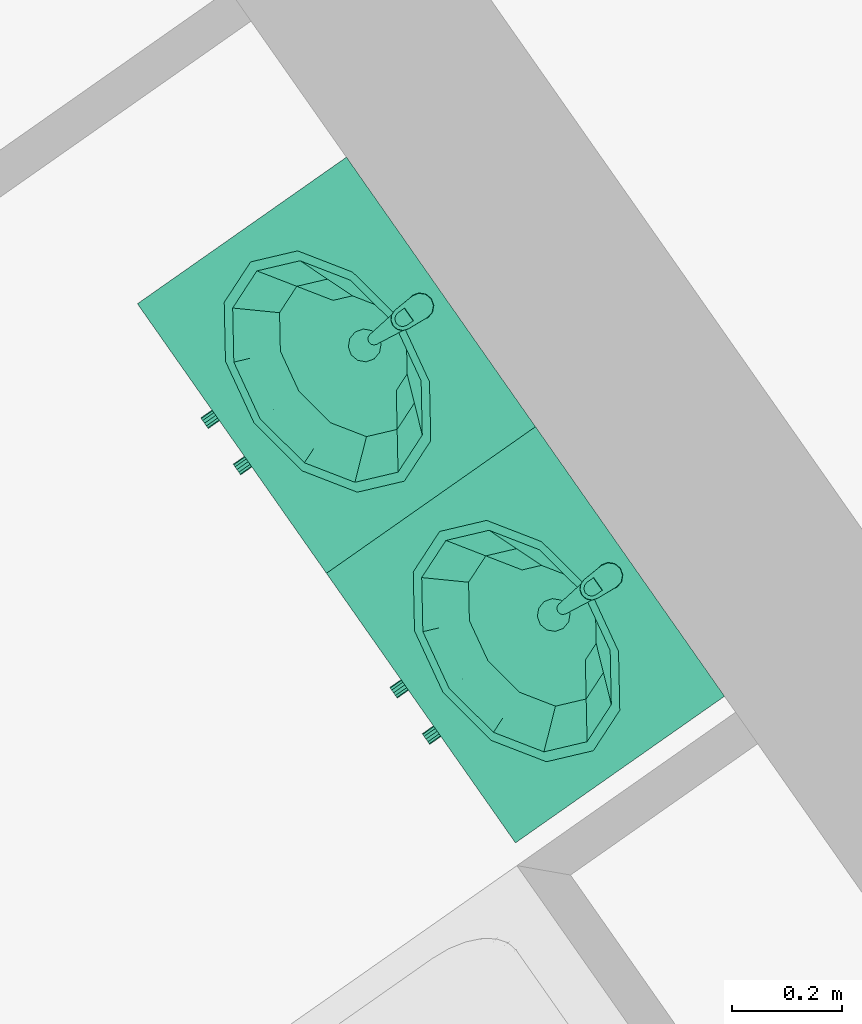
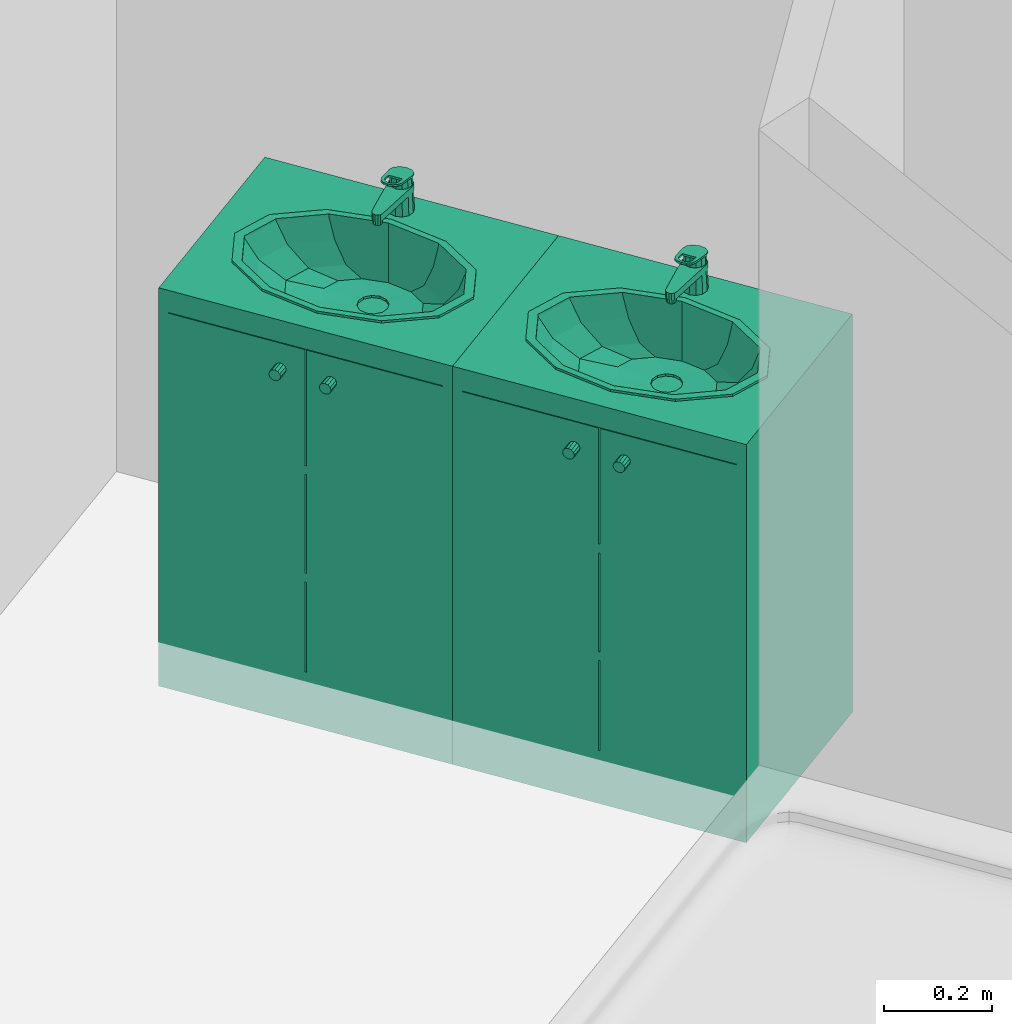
# One storey, part 90 of 121: 2 distribution elements.
"""IFC2X3 building model written with IfcOpenShell, lengths in metres."""

from ifc_helpers import new_model, entity, si_unit, converted_unit, derived_unit, money_unit, direction, frame, origin_with_axes, place, context, subcontext, project, spatial, open_shell, faceted_brep, surface_model, source, transform, mapped, type_object, element, save


model = new_model("IFC2X3")

# Units and contexts
model_context = context("Model", 3, precision=1e-05, world=origin_with_axes(), true_north=direction((0.0, 1.0)))
body_context = subcontext(model_context, "Body", "Model", "MODEL_VIEW")
ifc_project = project(units=[si_unit("LENGTHUNIT", "METRE"), si_unit("AREAUNIT", "SQUARE_METRE"), si_unit("VOLUMEUNIT", "CUBIC_METRE"), converted_unit("PLANEANGLEUNIT", "DEGREE", entity("IfcPlaneAngleMeasure", 0.0174532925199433), si_unit("PLANEANGLEUNIT", "RADIAN"), dimensions=[0, 0, 0, 0, 0, 0, 0]), money_unit("CHF"), converted_unit("TIMEUNIT", "Year", entity("IfcTimeMeasure", 31557600.0), si_unit("TIMEUNIT", "SECOND"), dimensions=[0, 0, 1, 0, 0, 0, 0]), si_unit("MASSUNIT", "GRAM", prefix="KILO"), si_unit("THERMODYNAMICTEMPERATUREUNIT", "DEGREE_CELSIUS"), si_unit("LUMINOUSINTENSITYUNIT", "LUMEN"), si_unit("ENERGYUNIT", "JOULE", prefix="MEGA"), derived_unit("THERMALCONDUCTANCEUNIT", [(si_unit("POWERUNIT", "WATT"), 1), (si_unit("LENGTHUNIT", "METRE"), -1), (si_unit("THERMODYNAMICTEMPERATUREUNIT", "KELVIN"), -1)]), derived_unit("SPECIFICHEATCAPACITYUNIT", [(si_unit("ENERGYUNIT", "JOULE"), 1), (si_unit("MASSUNIT", "GRAM", prefix="KILO"), -1), (si_unit("THERMODYNAMICTEMPERATUREUNIT", "KELVIN"), -1)]), derived_unit("MASSDENSITYUNIT", [(si_unit("MASSUNIT", "GRAM", prefix="KILO"), 1), (si_unit("VOLUMEUNIT", "CUBIC_METRE"), -1)])], contexts=[model_context])

# Site, building, storey
site_placement = place(None, origin_with_axes())
site = spatial("IfcSite", under=ifc_project, at=site_placement, Name="Site", CompositionType="ELEMENT")
building_placement = place(site_placement, origin_with_axes())
building = spatial("IfcBuilding", under=site, at=building_placement, Name="Bâtiment", CompositionType="ELEMENT")
storey_placement = place(building_placement, frame((0.0, 0.0, 2.75), z_axis=(0.0, 0.0, 1.0), x_axis=(1.0, 0.0, 0.0)))
storey = spatial("IfcBuildingStorey", under=building, at=storey_placement, Name="Etage 1", CompositionType="ELEMENT", Elevation=2.75)

# Distribution elements
distribution_element_type = type_object("IfcDistributionElementType", Name="Lavabo sur meuble 27")
shared_shape = source(origin_with_axes(), body_context, "Body", "SurfaceModel", [
    faceted_brep([(0.0, 0.0, 0.0), (0.6, 0.0, 0.0), (0.6, 0.0, 0.1), (0.0, 0.0, 0.1), (0.0, 0.4653441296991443, 0.0), (0.6, 0.4653441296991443, 0.0), (0.6, 0.4653441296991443, 0.1), (0.0, 0.4653441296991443, 0.1)], [[[0, 1, 2, 3]], [[0, 4, 5, 1]], [[1, 5, 6, 2]], [[3, 2, 6, 7]], [[4, 0, 3, 7]], [[5, 4, 7, 6]]]),
    faceted_brep([(0.0, 0.0, 0.1), (0.02, 0.0, 0.1), (0.02, 0.0, 0.12), (0.0, 0.0, 0.12), (0.0, 0.4653441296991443, 0.1), (0.02, 0.4653441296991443, 0.1), (0.58, 0.4653441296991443, 0.1), (0.6, 0.4653441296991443, 0.1), (0.6, 0.0, 0.1), (0.58, 0.0, 0.1), (0.58, 0.0, 0.12), (0.6, 0.0, 0.12), (0.6, 0.4653441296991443, 0.12), (0.58, 0.4653441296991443, 0.12), (0.02, 0.4653441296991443, 0.12), (0.0, 0.4653441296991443, 0.12)], [[[0, 1, 2, 3]], [[0, 4, 5, 6, 7, 8, 9, 1]], [[1, 9, 10, 2]], [[3, 2, 10, 11, 12, 13, 14, 15]], [[4, 0, 3, 15]], [[5, 4, 15, 14]], [[6, 5, 14, 13]], [[7, 6, 13, 12]], [[8, 7, 12, 11]], [[9, 8, 11, 10]]]),
    faceted_brep([(0.0, 0.0, 0.12), (0.02, 0.0, 0.12), (0.02, 0.0, 0.85), (0.0, 0.0, 0.85), (0.0, 0.4653441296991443, 0.12), (0.6, 0.4653441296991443, 0.12), (0.6, 0.0, 0.12), (0.58, 0.0, 0.12), (0.58, 0.4453441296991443, 0.12), (0.02, 0.4453441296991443, 0.12), (0.02, 0.4453441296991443, 0.85), (0.58, 0.4453441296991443, 0.85), (0.58, 0.0, 0.85), (0.6, 0.0, 0.85), (0.6, 0.4653441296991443, 0.85), (0.0, 0.4653441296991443, 0.85)], [[[0, 1, 2, 3]], [[0, 4, 5, 6, 7, 8, 9, 1]], [[1, 9, 10, 2]], [[3, 2, 10, 11, 12, 13, 14, 15]], [[4, 0, 3, 15]], [[5, 4, 15, 14]], [[6, 5, 14, 13]], [[7, 6, 13, 12]], [[8, 7, 12, 11]], [[9, 8, 11, 10]]]),
    faceted_brep([(0.58, 0.0, 0.3233333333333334), (0.58, 0.4453441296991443, 0.3233333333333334), (0.58, 0.4453441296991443, 0.3433333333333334), (0.58, 0.0, 0.3433333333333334), (0.02, 0.0, 0.3233333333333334), (0.02, 0.4453441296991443, 0.3233333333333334), (0.02, 0.4453441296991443, 0.3433333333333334), (0.02, 0.0, 0.3433333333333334)], [[[0, 1, 2, 3]], [[0, 4, 5, 1]], [[1, 5, 6, 2]], [[3, 2, 6, 7]], [[4, 0, 3, 7]], [[5, 4, 7, 6]]]),
    faceted_brep([(0.58, 0.0, 0.5666666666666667), (0.58, 0.4453441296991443, 0.5666666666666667), (0.58, 0.4453441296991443, 0.5866666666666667), (0.58, 0.0, 0.5866666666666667), (0.02, 0.0, 0.5666666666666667), (0.02, 0.4453441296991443, 0.5666666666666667), (0.02, 0.4453441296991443, 0.5866666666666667), (0.02, 0.0, 0.5866666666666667)], [[[0, 1, 2, 3]], [[0, 4, 5, 1]], [[1, 5, 6, 2]], [[3, 2, 6, 7]], [[4, 0, 3, 7]], [[5, 4, 7, 6]]]),
    faceted_brep([(0.0, 0.4653441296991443, 0.85), (0.6, 0.4653441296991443, 0.85), (0.6, 0.0, 0.85), (0.0, 0.0, 0.85), (0.4124999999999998, 0.08276825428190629, 0.85), (0.4948557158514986, 0.137672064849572, 0.85), (0.525, 0.2126720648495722, 0.85), (0.4948557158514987, 0.2876720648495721, 0.85), (0.4125, 0.3425758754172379, 0.85), (0.3, 0.3626720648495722, 0.85), (0.1875000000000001, 0.342575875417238, 0.85), (0.1051442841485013, 0.2876720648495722, 0.85), (0.07499999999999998, 0.2126720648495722, 0.85), (0.1051442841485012, 0.1376720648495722, 0.85), (0.1874999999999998, 0.08276825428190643, 0.85), (0.3, 0.06267206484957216, 0.85), (0.0, 0.4653441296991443, 0.9), (0.6, 0.4653441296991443, 0.9), (0.6, 0.0, 0.9), (0.0, 0.0, 0.9), (0.4124999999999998, 0.08276825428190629, 0.9), (0.4948557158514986, 0.137672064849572, 0.9), (0.525, 0.2126720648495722, 0.9), (0.4948557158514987, 0.2876720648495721, 0.9), (0.4125, 0.3425758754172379, 0.9), (0.3, 0.3626720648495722, 0.9), (0.1875000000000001, 0.342575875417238, 0.9), (0.1051442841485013, 0.2876720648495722, 0.9), (0.07499999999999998, 0.2126720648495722, 0.9), (0.1051442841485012, 0.1376720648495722, 0.9), (0.1874999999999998, 0.08276825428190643, 0.9), (0.3, 0.06267206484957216, 0.9)], [[[0, 1, 2, 3], [4, 5, 6, 7, 8, 9, 10, 11, 12, 13, 14, 15]], [[0, 16, 17, 1]], [[1, 17, 18, 2]], [[2, 18, 19, 3]], [[3, 19, 16, 0]], [[20, 21, 5, 4]], [[21, 22, 6, 5]], [[22, 23, 7, 6]], [[23, 24, 8, 7]], [[24, 25, 9, 8]], [[25, 26, 10, 9]], [[26, 27, 11, 10]], [[27, 28, 12, 11]], [[28, 29, 13, 12]], [[29, 30, 14, 13]], [[30, 31, 15, 14]], [[31, 20, 4, 15]], [[18, 17, 16, 19], [24, 23, 22, 21, 20, 31, 30, 29, 28, 27, 26, 25]]]),
    faceted_brep([(0.544, 0.2126720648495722, 0.905), (0.544, 0.2126720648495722, 0.9), (0.511310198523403, 0.2943684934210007, 0.9), (0.511310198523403, 0.2943684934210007, 0.905), (0.5113101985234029, 0.1309756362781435, 0.905), (0.5113101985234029, 0.1309756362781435, 0.9), (0.4219999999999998, 0.07116969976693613, 0.9), (0.3, 0.04927920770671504, 0.9), (0.1779999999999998, 0.07116969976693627, 0.9), (0.08868980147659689, 0.1309756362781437, 0.9), (0.05599999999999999, 0.2126720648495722, 0.9), (0.088689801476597, 0.2943684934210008, 0.9), (0.178, 0.3541744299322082, 0.9), (0.3, 0.3760649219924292, 0.9), (0.422, 0.3541744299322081, 0.9), (0.524, 0.2126720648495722, 0.9), (0.4939896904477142, 0.2876720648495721, 0.9), (0.412, 0.3425758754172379, 0.9), (0.3, 0.3626720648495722, 0.9), (0.1880000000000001, 0.342575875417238, 0.9), (0.1060103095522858, 0.2876720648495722, 0.9), (0.07599999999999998, 0.2126720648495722, 0.9), (0.1060103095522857, 0.1376720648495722, 0.9), (0.1879999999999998, 0.08276825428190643, 0.9), (0.3, 0.06267206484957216, 0.9), (0.4119999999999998, 0.08276825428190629, 0.9), (0.4939896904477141, 0.137672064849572, 0.9), (0.422, 0.3541744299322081, 0.905), (0.3, 0.3760649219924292, 0.905), (0.178, 0.3541744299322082, 0.905), (0.088689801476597, 0.2943684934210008, 0.905), (0.05599999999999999, 0.2126720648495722, 0.905), (0.08868980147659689, 0.1309756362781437, 0.905), (0.1779999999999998, 0.07116969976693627, 0.905), (0.3, 0.04927920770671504, 0.905), (0.4219999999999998, 0.07116969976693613, 0.905), (0.524, 0.2126720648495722, 0.905), (0.4939896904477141, 0.137672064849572, 0.905), (0.4119999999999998, 0.08276825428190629, 0.905), (0.3, 0.06267206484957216, 0.905), (0.1879999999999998, 0.08276825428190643, 0.905), (0.1060103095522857, 0.1376720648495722, 0.905), (0.07599999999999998, 0.2126720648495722, 0.905), (0.1060103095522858, 0.2876720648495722, 0.905), (0.1880000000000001, 0.342575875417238, 0.905), (0.3, 0.3626720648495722, 0.905), (0.412, 0.3425758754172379, 0.905), (0.4939896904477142, 0.2876720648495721, 0.905)], [[[0, 1, 2, 3]], [[4, 5, 1, 0]], [[1, 5, 6, 7, 8, 9, 10, 11, 12, 13, 14, 2], [15, 16, 17, 18, 19, 20, 21, 22, 23, 24, 25, 26]], [[3, 2, 14, 27]], [[0, 3, 27, 28, 29, 30, 31, 32, 33, 34, 35, 4], [36, 37, 38, 39, 40, 41, 42, 43, 44, 45, 46, 47]], [[35, 6, 5, 4]], [[34, 7, 6, 35]], [[33, 8, 7, 34]], [[32, 9, 8, 33]], [[31, 10, 9, 32]], [[30, 11, 10, 31]], [[29, 12, 11, 30]], [[28, 13, 12, 29]], [[27, 14, 13, 28]], [[47, 16, 15, 36]], [[46, 17, 16, 47]], [[45, 18, 17, 46]], [[44, 19, 18, 45]], [[43, 20, 19, 44]], [[42, 21, 20, 43]], [[41, 22, 21, 42]], [[40, 23, 22, 41]], [[39, 24, 23, 40]], [[38, 25, 24, 39]], [[37, 26, 25, 38]], [[36, 15, 26, 37]]]),
    surface_model("IfcShellBasedSurfaceModel", [(0.3, 0.3626720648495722, 0.9), (0.3, 0.3626720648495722, 0.848), (0.4008, 0.3445854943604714, 0.848), (0.412, 0.342575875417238, 0.9), (0.1879999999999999, 0.3425758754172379, 0.9), (0.1991999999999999, 0.3445854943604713, 0.848), (0.4745907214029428, 0.2951720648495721, 0.848), (0.4939896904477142, 0.2876720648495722, 0.9), (0.1060103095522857, 0.2876720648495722, 0.9), (0.1254092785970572, 0.2951720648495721, 0.848), (0.5016, 0.2276720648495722, 0.848), (0.524, 0.2126720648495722, 0.9), (0.07599999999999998, 0.2126720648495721, 0.9), (0.09839999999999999, 0.2276720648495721, 0.848), (0.4745907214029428, 0.1601720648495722, 0.848), (0.4939896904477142, 0.1376720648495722, 0.9), (0.1060103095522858, 0.1376720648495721, 0.9), (0.1254092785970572, 0.1601720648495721, 0.848), (0.4008, 0.1107586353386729, 0.848), (0.412, 0.08276825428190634, 0.9), (0.1879999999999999, 0.08276825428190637, 0.9), (0.1992, 0.110758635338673, 0.848), (0.3, 0.09267206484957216, 0.848), (0.3, 0.06267206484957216, 0.9)], [open_shell([[[0, 1, 2, 3]], [[4, 5, 1, 0]], [[3, 2, 6, 7]], [[8, 9, 5, 4]], [[7, 6, 10, 11]], [[12, 13, 9, 8]], [[11, 10, 14, 15]], [[16, 17, 13, 12]], [[15, 14, 18, 19]], [[20, 21, 17, 16]], [[19, 18, 22, 23]], [[23, 22, 21, 20]]])]),
    surface_model("IfcShellBasedSurfaceModel", [(0.3, 0.3626720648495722, 0.848), (0.3, 0.3626720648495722, 0.7959999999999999), (0.379632, 0.3483836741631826, 0.7959999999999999), (0.4008, 0.3445854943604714, 0.848), (0.1991999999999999, 0.3445854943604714, 0.848), (0.2203679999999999, 0.3483836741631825, 0.7959999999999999), (0.4379266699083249, 0.3093470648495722, 0.7959999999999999), (0.4745907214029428, 0.2951720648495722, 0.848), (0.1254092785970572, 0.2951720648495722, 0.848), (0.1620733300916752, 0.3093470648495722, 0.7959999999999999), (0.459264, 0.2560220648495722, 0.7959999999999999), (0.5016, 0.2276720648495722, 0.848), (0.09839999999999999, 0.2276720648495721, 0.848), (0.140736, 0.2560220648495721, 0.7959999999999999), (0.4379266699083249, 0.2026970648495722, 0.7959999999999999), (0.4745907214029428, 0.1601720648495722, 0.848), (0.1254092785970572, 0.1601720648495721, 0.848), (0.1620733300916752, 0.2026970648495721, 0.7959999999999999), (0.379632, 0.1636604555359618, 0.7959999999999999), (0.4008, 0.1107586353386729, 0.848), (0.1992, 0.110758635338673, 0.848), (0.220368, 0.1636604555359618, 0.7959999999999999), (0.3, 0.1493720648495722, 0.7959999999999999), (0.3, 0.09267206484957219, 0.848)], [open_shell([[[0, 1, 2, 3]], [[4, 5, 1, 0]], [[3, 2, 6, 7]], [[8, 9, 5, 4]], [[7, 6, 10, 11]], [[12, 13, 9, 8]], [[11, 10, 14, 15]], [[16, 17, 13, 12]], [[15, 14, 18, 19]], [[20, 21, 17, 16]], [[19, 18, 22, 23]], [[23, 22, 21, 20]]])]),
    surface_model("IfcShellBasedSurfaceModel", [(0.3, 0.3626720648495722, 0.7959999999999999), (0.3, 0.3626720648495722, 0.7699999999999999), (0.35016816, 0.3536703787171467, 0.7699999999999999), (0.379632, 0.3483836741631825, 0.7959999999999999), (0.2203679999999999, 0.3483836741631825, 0.7959999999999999), (0.2498318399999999, 0.3536703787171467, 0.7699999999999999), (0.3868938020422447, 0.3290773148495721, 0.7699999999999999), (0.4379266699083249, 0.3093470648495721, 0.7959999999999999), (0.1620733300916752, 0.3093470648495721, 0.7959999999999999), (0.2131061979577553, 0.3290773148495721, 0.7699999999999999), (0.40033632, 0.2954825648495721, 0.7699999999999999), (0.459264, 0.2560220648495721, 0.7959999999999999), (0.140736, 0.2560220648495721, 0.7959999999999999), (0.19966368, 0.2954825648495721, 0.7699999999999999), (0.3868938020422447, 0.2618878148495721, 0.7699999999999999), (0.4379266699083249, 0.2026970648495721, 0.7959999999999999), (0.1620733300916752, 0.2026970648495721, 0.7959999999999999), (0.2131061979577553, 0.2618878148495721, 0.7699999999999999), (0.35016816, 0.2372947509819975, 0.7699999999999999), (0.379632, 0.1636604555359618, 0.7959999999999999), (0.220368, 0.1636604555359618, 0.7959999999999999), (0.24983184, 0.2372947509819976, 0.7699999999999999), (0.3, 0.2282930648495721, 0.7699999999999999), (0.3, 0.1493720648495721, 0.7959999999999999)], [open_shell([[[0, 1, 2, 3]], [[4, 5, 1, 0]], [[3, 2, 6, 7]], [[8, 9, 5, 4]], [[7, 6, 10, 11]], [[12, 13, 9, 8]], [[11, 10, 14, 15]], [[16, 17, 13, 12]], [[15, 14, 18, 19]], [[20, 21, 17, 16]], [[19, 18, 22, 23]], [[23, 22, 21, 20]]])]),
    surface_model("IfcShellBasedSurfaceModel", [(0.3, 0.3626720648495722, 0.7699999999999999), (0.315, 0.3214633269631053, 0.7629999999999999), (0.35016816, 0.3536703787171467, 0.7699999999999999), (0.3, 0.3254825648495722, 0.7629999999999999), (0.3259807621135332, 0.3104825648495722, 0.7629999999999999), (0.2498318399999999, 0.3536703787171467, 0.7699999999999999), (0.3868938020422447, 0.3290773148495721, 0.7699999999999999), (0.285, 0.3214633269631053, 0.7629999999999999), (0.33, 0.2954825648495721, 0.7629999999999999), (0.2131061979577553, 0.3290773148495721, 0.7699999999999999), (0.40033632, 0.2954825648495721, 0.7699999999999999), (0.2740192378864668, 0.3104825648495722, 0.7629999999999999), (0.3259807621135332, 0.2804825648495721, 0.7629999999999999), (0.19966368, 0.2954825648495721, 0.7699999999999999), (0.3868938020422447, 0.2618878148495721, 0.7699999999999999), (0.27, 0.2954825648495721, 0.7629999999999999), (0.315, 0.269501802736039, 0.7629999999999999), (0.2131061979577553, 0.2618878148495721, 0.7699999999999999), (0.35016816, 0.2372947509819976, 0.7699999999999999), (0.2740192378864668, 0.2804825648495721, 0.7629999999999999), (0.3, 0.2654825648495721, 0.7629999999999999), (0.24983184, 0.2372947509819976, 0.7699999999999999), (0.3, 0.2282930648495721, 0.7699999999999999), (0.285, 0.269501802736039, 0.7629999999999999)], [open_shell([[[0, 1, 2]], [[0, 3, 1]], [[2, 1, 4]], [[5, 3, 0]], [[2, 4, 6]], [[5, 7, 3]], [[6, 4, 8]], [[9, 7, 5]], [[6, 8, 10]], [[9, 11, 7]], [[10, 8, 12]], [[13, 11, 9]], [[10, 12, 14]], [[13, 15, 11]], [[14, 12, 16]], [[17, 15, 13]], [[14, 16, 18]], [[17, 19, 15]], [[18, 16, 20]], [[21, 19, 17]], [[18, 20, 22]], [[21, 23, 19]], [[22, 20, 23]], [[22, 23, 21]]])]),
    surface_model("IfcShellBasedSurfaceModel", [(0.33, 0.2954825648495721, 0.763), (0.33, 0.2954825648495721, 0.758), (0.3259807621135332, 0.3104825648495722, 0.758), (0.3259807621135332, 0.3104825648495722, 0.763), (0.3259807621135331, 0.2804825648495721, 0.763), (0.3259807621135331, 0.2804825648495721, 0.758), (0.3149999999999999, 0.269501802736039, 0.758), (0.3, 0.2654825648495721, 0.758), (0.285, 0.269501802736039, 0.758), (0.2740192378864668, 0.2804825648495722, 0.758), (0.27, 0.2954825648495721, 0.758), (0.2740192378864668, 0.3104825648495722, 0.758), (0.285, 0.3214633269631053, 0.758), (0.3, 0.3254825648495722, 0.758), (0.315, 0.3214633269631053, 0.758), (0.315, 0.3214633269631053, 0.763), (0.3149999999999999, 0.269501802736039, 0.763), (0.3, 0.2654825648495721, 0.763), (0.285, 0.269501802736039, 0.763), (0.2740192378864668, 0.2804825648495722, 0.763), (0.27, 0.2954825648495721, 0.763), (0.2740192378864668, 0.3104825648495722, 0.763), (0.285, 0.3214633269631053, 0.763), (0.3, 0.3254825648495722, 0.763)], [open_shell([[[0, 1, 2, 3]], [[4, 5, 1, 0]], [[1, 5, 6, 7, 8, 9, 10, 11, 12, 13, 14, 2]], [[3, 2, 14, 15]], [[16, 6, 5, 4]], [[17, 7, 6, 16]], [[18, 8, 7, 17]], [[19, 9, 8, 18]], [[20, 10, 9, 19]], [[21, 11, 10, 20]], [[22, 12, 11, 21]], [[23, 13, 12, 22]], [[15, 14, 13, 23]]])]),
    faceted_brep([(0.3125, 0.4406587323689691, 0.9), (0.3, 0.4440080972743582, 0.9), (0.3, 0.4402100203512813, 0.9759615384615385), (0.310587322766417, 0.4373458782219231, 0.976507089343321), (0.3216506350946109, 0.4315080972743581, 0.9), (0.325, 0.4190080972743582, 0.9), (0.3216506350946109, 0.4065080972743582, 0.9), (0.3125, 0.3973574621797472, 0.9), (0.3, 0.3940080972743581, 0.9), (0.2875, 0.3973574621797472, 0.9), (0.278349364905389, 0.4065080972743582, 0.9), (0.275, 0.4190080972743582, 0.9), (0.278349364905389, 0.4315080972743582, 0.9), (0.2875, 0.4406587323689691, 0.9), (0.289412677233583, 0.4373458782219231, 0.976507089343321), (0.2817264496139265, 0.4295583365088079, 0.9779904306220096), (0.279, 0.4190080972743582, 0.98), (0.2818996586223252, 0.4085578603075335, 0.9819905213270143), (0.2895858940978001, 0.400970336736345, 0.9834357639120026), (0.3, 0.3982062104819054, 0.9839622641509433), (0.3104141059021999, 0.400970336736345, 0.9834357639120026), (0.3181003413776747, 0.4085578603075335, 0.9819905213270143), (0.321, 0.4190080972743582, 0.98), (0.3182735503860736, 0.4295583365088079, 0.9779904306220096)], [[[0, 1, 2, 3]], [[0, 4, 5, 6, 7, 8, 9, 10, 11, 12, 13, 1]], [[1, 13, 14, 2]], [[3, 2, 14, 15, 16, 17, 18, 19, 20, 21, 22, 23]], [[4, 0, 3, 23]], [[5, 4, 23, 22]], [[6, 5, 22, 21]], [[7, 6, 21, 20]], [[8, 7, 20, 19]], [[9, 8, 19, 18]], [[10, 9, 18, 17]], [[11, 10, 17, 16]], [[12, 11, 16, 15]], [[13, 12, 15, 14]]]),
    faceted_brep([(0.309, 0.3160080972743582, 0.935), (0.3077942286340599, 0.3205080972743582, 0.935), (0.3077942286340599, 0.3205080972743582, 0.9450000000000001), (0.309, 0.3160080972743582, 0.9450000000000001), (0.3077942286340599, 0.3115080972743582, 0.935), (0.3045, 0.3082138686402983, 0.935), (0.3, 0.3070080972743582, 0.935), (0.2955, 0.3082138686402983, 0.935), (0.2922057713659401, 0.3115080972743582, 0.935), (0.291, 0.3160080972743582, 0.935), (0.2922057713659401, 0.3205080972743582, 0.935), (0.2955, 0.3238023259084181, 0.935), (0.3, 0.3250080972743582, 0.935), (0.3045, 0.3238023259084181, 0.935), (0.3045, 0.3238023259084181, 0.9450000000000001), (0.3, 0.3250080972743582, 0.9450000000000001), (0.2955, 0.3238023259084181, 0.9450000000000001), (0.2922057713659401, 0.3205080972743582, 0.9450000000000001), (0.291, 0.3160080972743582, 0.9450000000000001), (0.2922057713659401, 0.3115080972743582, 0.9450000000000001), (0.2955, 0.3082138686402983, 0.9450000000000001), (0.3, 0.3070080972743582, 0.9450000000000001), (0.3045, 0.3082138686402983, 0.9450000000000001), (0.3077942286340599, 0.3115080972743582, 0.9450000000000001)], [[[0, 1, 2, 3]], [[0, 4, 5, 6, 7, 8, 9, 10, 11, 12, 13, 1]], [[1, 13, 14, 2]], [[3, 2, 14, 15, 16, 17, 18, 19, 20, 21, 22, 23]], [[4, 0, 3, 23]], [[5, 4, 23, 22]], [[6, 5, 22, 21]], [[7, 6, 21, 20]], [[8, 7, 20, 19]], [[9, 8, 19, 18]], [[10, 9, 18, 17]], [[11, 10, 17, 16]], [[12, 11, 16, 15]], [[13, 12, 15, 14]]]),
    faceted_brep([(0.2871282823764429, 0.439264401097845, 0.9600000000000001), (0.2782721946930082, 0.4292013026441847, 0.9600000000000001), (0.2761946, 0.4159581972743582, 0.9600000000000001), (0.2890880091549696, 0.3146197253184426, 0.9600000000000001), (0.2909711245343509, 0.3097249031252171, 0.9600000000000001), (0.2949066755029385, 0.3062583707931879, 0.9600000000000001), (0.300000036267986, 0.305008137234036, 0.9600000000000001), (0.3050933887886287, 0.3062584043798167, 0.9600000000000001), (0.309028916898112, 0.3097249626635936, 0.9600000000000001), (0.310912, 0.3146197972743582, 0.9600000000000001), (0.3238053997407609, 0.4159581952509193, 0.9600000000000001), (0.3217278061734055, 0.4292013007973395, 0.9600000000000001), (0.3128717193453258, 0.4392644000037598, 0.9600000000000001), (0.300000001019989, 0.44300807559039, 0.9600000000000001), (0.311, 0.4380606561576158, 0.9600000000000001), (0.3190525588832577, 0.4300080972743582, 0.9600000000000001), (0.322, 0.4190080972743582, 0.9600000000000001), (0.3190525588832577, 0.4080080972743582, 0.9600000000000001), (0.3109999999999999, 0.3999555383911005, 0.9600000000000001), (0.3, 0.3970080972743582, 0.9600000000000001), (0.289, 0.3999555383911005, 0.9600000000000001), (0.2809474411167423, 0.4080080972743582, 0.9600000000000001), (0.278, 0.4190080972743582, 0.9600000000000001), (0.2809474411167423, 0.4300080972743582, 0.9600000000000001), (0.289, 0.4380606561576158, 0.9600000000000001), (0.3, 0.4410080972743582, 0.9600000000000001), (0.2782721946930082, 0.4292013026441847, 0.9450000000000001), (0.2871282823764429, 0.439264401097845, 0.9450000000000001), (0.2761946, 0.4159581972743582, 0.9450000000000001), (0.2890880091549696, 0.3146197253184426, 0.9450000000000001), (0.2909711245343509, 0.3097249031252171, 0.9450000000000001), (0.2949066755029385, 0.3062583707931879, 0.9450000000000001), (0.300000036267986, 0.305008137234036, 0.9450000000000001), (0.3050933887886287, 0.3062584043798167, 0.9450000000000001), (0.309028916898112, 0.3097249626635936, 0.9450000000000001), (0.310912, 0.3146197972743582, 0.9450000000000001), (0.3238053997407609, 0.4159581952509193, 0.9450000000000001), (0.3217278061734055, 0.4292013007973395, 0.9450000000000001), (0.3128717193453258, 0.4392644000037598, 0.9450000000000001), (0.300000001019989, 0.44300807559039, 0.9450000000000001), (0.311375, 0.4387101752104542, 0.9450000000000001), (0.319702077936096, 0.4303830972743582, 0.9450000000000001), (0.32275, 0.4190080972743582, 0.9450000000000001), (0.319702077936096, 0.4076330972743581, 0.9450000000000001), (0.311375, 0.3993060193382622, 0.9450000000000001), (0.3, 0.3962580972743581, 0.9450000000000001), (0.288625, 0.3993060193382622, 0.9450000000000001), (0.280297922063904, 0.4076330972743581, 0.9450000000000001), (0.2772499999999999, 0.4190080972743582, 0.9450000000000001), (0.280297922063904, 0.4303830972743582, 0.9450000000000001), (0.288625, 0.4387101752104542, 0.9450000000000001), (0.3, 0.4417580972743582, 0.9450000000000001)], [[[0, 1, 2, 3, 4, 5, 6, 7, 8, 9, 10, 11, 12, 13], [14, 15, 16, 17, 18, 19, 20, 21, 22, 23, 24, 25]], [[26, 1, 0, 27]], [[28, 2, 1, 26]], [[29, 3, 2, 28]], [[30, 4, 3, 29]], [[31, 5, 4, 30]], [[32, 6, 5, 31]], [[33, 7, 6, 32]], [[34, 8, 7, 33]], [[35, 9, 8, 34]], [[36, 10, 9, 35]], [[37, 11, 10, 36]], [[38, 12, 11, 37]], [[39, 13, 12, 38]], [[27, 0, 13, 39]], [[40, 41, 15, 14]], [[41, 42, 16, 15]], [[42, 43, 17, 16]], [[43, 44, 18, 17]], [[44, 45, 19, 18]], [[20, 19, 45, 46]], [[21, 20, 46, 47]], [[22, 21, 47, 48]], [[23, 22, 48, 49]], [[24, 23, 49, 50]], [[50, 51, 25, 24]], [[51, 40, 14, 25]], [[32, 31, 30, 29, 28, 26, 27, 39, 38, 37, 36, 35, 34, 33], [44, 43, 42, 41, 40, 51, 50, 49, 48, 47, 46, 45]]]),
    faceted_brep([(0.323893, 0.4173155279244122, 0.9803223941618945), (0.3212964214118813, 0.4297828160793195, 0.9779476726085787), (0.3212964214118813, 0.4305312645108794, 0.9818770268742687), (0.323893, 0.4180639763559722, 0.9842517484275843), (0.3209459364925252, 0.377171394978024, 0.9879688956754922), (0.317663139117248, 0.3674937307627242, 0.9898122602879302), (0.3100614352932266, 0.3605443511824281, 0.9911359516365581), (0.2999995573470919, 0.3580224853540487, 0.9916163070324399), (0.289937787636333, 0.3605447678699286, 0.9911358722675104), (0.2823363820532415, 0.3674944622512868, 0.9898121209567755), (0.279054, 0.3771722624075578, 0.9879687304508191), (0.2761069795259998, 0.4173158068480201, 0.9803223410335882), (0.2787037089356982, 0.4297830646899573, 0.9779476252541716), (0.2875283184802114, 0.4390992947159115, 0.976173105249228), (0.3000001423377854, 0.4425400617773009, 0.9755177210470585), (0.3124719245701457, 0.4390991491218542, 0.9761731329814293), (0.314, 0.3934672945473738, 0.9848649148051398), (0.286, 0.3934672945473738, 0.9848649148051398), (0.286, 0.37865166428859, 0.9876869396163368), (0.2878756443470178, 0.3717752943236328, 0.9889967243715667), (0.293, 0.3667414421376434, 0.9899555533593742), (0.3, 0.3648989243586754, 0.9903065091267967), (0.307, 0.3667414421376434, 0.9899555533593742), (0.3121243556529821, 0.3717752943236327, 0.9889967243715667), (0.314, 0.37865166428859, 0.9876869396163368), (0.3124719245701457, 0.4398475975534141, 0.9801024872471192), (0.3000001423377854, 0.4432885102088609, 0.9794470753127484), (0.2875283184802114, 0.4398477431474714, 0.9801024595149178), (0.2787037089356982, 0.4305315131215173, 0.9818769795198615), (0.2761069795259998, 0.4180642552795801, 0.9842516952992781), (0.279054, 0.3779207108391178, 0.991898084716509), (0.2823363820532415, 0.3682429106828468, 0.9937414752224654), (0.289937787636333, 0.3612932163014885, 0.9950652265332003), (0.2999995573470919, 0.3587709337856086, 0.9955456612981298), (0.3100614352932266, 0.3612927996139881, 0.995065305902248), (0.317663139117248, 0.3682421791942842, 0.9937416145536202), (0.3209459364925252, 0.377919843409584, 0.9918982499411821), (0.314, 0.3942157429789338, 0.9887942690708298), (0.314, 0.3794001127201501, 0.9916162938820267), (0.3121243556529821, 0.3725237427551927, 0.9929260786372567), (0.307, 0.3674898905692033, 0.9938849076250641), (0.3, 0.3656473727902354, 0.9942358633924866), (0.293, 0.3674898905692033, 0.9938849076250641), (0.2878756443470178, 0.3725237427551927, 0.9929260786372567), (0.286, 0.3794001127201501, 0.9916162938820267), (0.286, 0.3942157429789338, 0.9887942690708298)], [[[0, 1, 2, 3]], [[0, 4, 5, 6, 7, 8, 9, 10, 11, 12, 13, 14, 15, 1], [16, 17, 18, 19, 20, 21, 22, 23, 24]], [[1, 15, 25, 2]], [[3, 2, 25, 26, 27, 28, 29, 30, 31, 32, 33, 34, 35, 36], [37, 38, 39, 40, 41, 42, 43, 44, 45]], [[4, 0, 3, 36]], [[5, 4, 36, 35]], [[6, 5, 35, 34]], [[7, 6, 34, 33]], [[8, 7, 33, 32]], [[9, 8, 32, 31]], [[10, 9, 31, 30]], [[11, 10, 30, 29]], [[12, 11, 29, 28]], [[13, 12, 28, 27]], [[14, 13, 27, 26]], [[15, 14, 26, 25]], [[17, 16, 37, 45]], [[18, 17, 45, 44]], [[19, 18, 44, 43]], [[20, 19, 43, 42]], [[21, 20, 42, 41]], [[22, 21, 41, 40]], [[23, 22, 40, 39]], [[24, 23, 39, 38]], [[16, 24, 38, 37]]]),
    surface_model("IfcShellBasedSurfaceModel", [(0.001500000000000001, 0.0, 0.1015), (0.001500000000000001, 0.0, 0.8485), (0.2985, 0.0, 0.8485), (0.2985, 0.0, 0.1015)], [open_shell([[[0, 1, 2, 3]]])]),
    faceted_brep([(0.2588923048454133, 0.0, 0.7855), (0.2545, 0.0, 0.7811076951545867), (0.2485, 0.0, 0.7795), (0.2425, 0.0, 0.7811076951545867), (0.2381076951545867, 0.0, 0.7855), (0.2365, 0.0, 0.7915), (0.2381076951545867, 0.0, 0.7975), (0.2425, 0.0, 0.8018923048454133), (0.2485, 0.0, 0.8035), (0.2545, 0.0, 0.8018923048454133), (0.2588923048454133, 0.0, 0.7975), (0.2605, 0.0, 0.7915), (0.2588923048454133, -0.025, 0.7855), (0.2545, -0.025, 0.7811076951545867), (0.2485, -0.025, 0.7795), (0.2425, -0.025, 0.7811076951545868), (0.2381076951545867, -0.025, 0.7855), (0.2365, -0.025, 0.7915), (0.2381076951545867, -0.025, 0.7975), (0.2425, -0.025, 0.8018923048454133), (0.2485, -0.025, 0.8035), (0.2545, -0.025, 0.8018923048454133), (0.2588923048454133, -0.025, 0.7975), (0.2605, -0.025, 0.7915)], [[[0, 1, 2, 3, 4, 5, 6, 7, 8, 9, 10, 11]], [[1, 0, 12, 13]], [[2, 1, 13, 14]], [[3, 2, 14, 15]], [[4, 3, 15, 16]], [[5, 4, 16, 17]], [[6, 5, 17, 18]], [[7, 6, 18, 19]], [[8, 7, 19, 20]], [[9, 8, 20, 21]], [[10, 9, 21, 22]], [[11, 10, 22, 23]], [[0, 11, 23, 12]], [[12, 23, 22, 21, 20, 19, 18, 17, 16, 15, 14, 13]]]),
    surface_model("IfcShellBasedSurfaceModel", [(0.5985, 0.0, 0.1015), (0.3015000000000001, 0.0, 0.1015), (0.3015000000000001, 0.0, 0.8485), (0.5985, 0.0, 0.8485)], [open_shell([[[0, 1, 2, 3]]])]),
    faceted_brep([(0.3411076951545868, 0.0, 0.7855), (0.3395, 0.0, 0.7915), (0.3411076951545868, 0.0, 0.7975), (0.3455, 0.0, 0.8018923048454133), (0.3515, 0.0, 0.8035), (0.3575, 0.0, 0.8018923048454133), (0.3618923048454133, 0.0, 0.7975), (0.3635, 0.0, 0.7915), (0.3618923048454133, 0.0, 0.7855), (0.3575, 0.0, 0.7811076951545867), (0.3515, 0.0, 0.7795), (0.3455, 0.0, 0.7811076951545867), (0.3411076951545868, -0.025, 0.7855), (0.3395, -0.025, 0.7915), (0.3411076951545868, -0.025, 0.7975), (0.3455, -0.025, 0.8018923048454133), (0.3515, -0.025, 0.8035), (0.3575, -0.025, 0.8018923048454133), (0.3618923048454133, -0.025, 0.7975), (0.3635, -0.025, 0.7915), (0.3618923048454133, -0.025, 0.7855), (0.3575, -0.025, 0.7811076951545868), (0.3515, -0.025, 0.7795), (0.3455, -0.025, 0.7811076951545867)], [[[0, 1, 2, 3, 4, 5, 6, 7, 8, 9, 10, 11]], [[0, 12, 13, 1]], [[1, 13, 14, 2]], [[2, 14, 15, 3]], [[3, 15, 16, 4]], [[4, 16, 17, 5]], [[5, 17, 18, 6]], [[6, 18, 19, 7]], [[7, 19, 20, 8]], [[8, 20, 21, 9]], [[9, 21, 22, 10]], [[10, 22, 23, 11]], [[11, 23, 12, 0]], [[12, 23, 22, 21, 20, 19, 18, 17, 16, 15, 14, 13]]]),
])
for number, where, z_axis, x_axis, name in (
    (1, (9557.499897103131, -1063.695373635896, 57.59999999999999), (0.0, 0.0, 1.0), (0.5741598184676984, -0.8187432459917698, 0.0), "Obj.-004"),
    (2, (9557.155401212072, -1063.20412768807, 57.59999999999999), (0.0, 0.0, 1.0), (0.5741598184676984, -0.8187432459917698, 0.0), "Obj.-004"),
):
    element("IfcDistributionElement", number, at=place(storey_placement, frame(where, z_axis=z_axis, x_axis=x_axis)), inside=storey, type_object=distribution_element_type, Name=name, context=body_context, shape_type="MappedRepresentation", body=[
        mapped(shared_shape, transform((0.0, 0.0, 0.0))),
    ])

save(model, "model.ifc")
